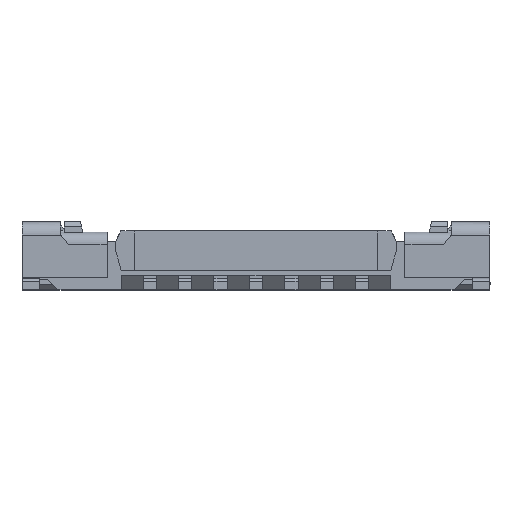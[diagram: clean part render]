
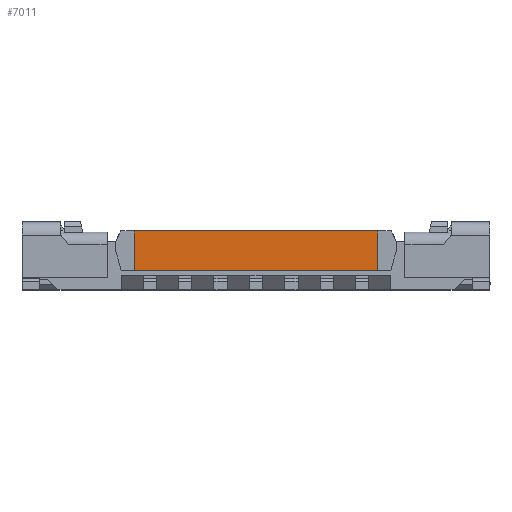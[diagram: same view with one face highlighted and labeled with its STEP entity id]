
A CAD part, top view. The second image highlights one B-rep face of the part: STEP entity #7011.
In plain terms, the highlighted planar face has unit normal (0, 0, 1).
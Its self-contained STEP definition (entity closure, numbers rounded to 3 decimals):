
#27 = FACE_OUTER_BOUND ( 'NONE', #8139, .T. ) ;
#1101 = CARTESIAN_POINT ( 'NONE',  ( -7.175, 0.58, 0.99 ) ) ;
#1160 = ORIENTED_EDGE ( 'NONE', *, *, #11212, .T. ) ;
#1413 = ORIENTED_EDGE ( 'NONE', *, *, #1909, .F. ) ;
#1909 = EDGE_CURVE ( 'NONE', #4611, #5543, #3820, .T. ) ;
#2060 = CARTESIAN_POINT ( 'NONE',  ( -7.175, 0.17, 0.99 ) ) ;
#2305 = PLANE ( 'NONE',  #4972 ) ;
#2630 = VECTOR ( 'NONE', #7715, 1000. ) ;
#2844 = DIRECTION ( 'NONE',  ( 0., -1., 0. ) ) ;
#3105 = DIRECTION ( 'NONE',  ( -1., 0., 0. ) ) ;
#3162 = ORIENTED_EDGE ( 'NONE', *, *, #7248, .F. ) ;
#3353 = VECTOR ( 'NONE', #8055, 1000. ) ;
#3765 = CARTESIAN_POINT ( 'NONE',  ( 0.15, 0.19, 0.99 ) ) ;
#3820 = LINE ( 'NONE', #3765, #2630 ) ;
#4015 = DIRECTION ( 'NONE',  ( 0., 0., -1. ) ) ;
#4093 = VERTEX_POINT ( 'NONE', #10493 ) ;
#4611 = VERTEX_POINT ( 'NONE', #5809 ) ;
#4972 = AXIS2_PLACEMENT_3D ( 'NONE', #2060, #4015, #3105 ) ;
#5543 = VERTEX_POINT ( 'NONE', #11969 ) ;
#5809 = CARTESIAN_POINT ( 'NONE',  ( 0.15, 0.58, 0.99 ) ) ;
#5920 = VECTOR ( 'NONE', #2844, 1000. ) ;
#5941 = DIRECTION ( 'NONE',  ( -1., 0., 0. ) ) ;
#6924 = CARTESIAN_POINT ( 'NONE',  ( -2.25, 0.19, 0.99 ) ) ;
#7011 = ADVANCED_FACE ( 'NONE', ( #27 ), #2305, .F. ) ;
#7028 = LINE ( 'NONE', #12808, #12230 ) ;
#7248 = EDGE_CURVE ( 'NONE', #5543, #10365, #7028, .T. ) ;
#7715 = DIRECTION ( 'NONE',  ( 0., -1., 0. ) ) ;
#7857 = EDGE_CURVE ( 'NONE', #4611, #4093, #10006, .T. ) ;
#7905 = LINE ( 'NONE', #6924, #5920 ) ;
#8055 = DIRECTION ( 'NONE',  ( -1., 0., 0. ) ) ;
#8139 = EDGE_LOOP ( 'NONE', ( #3162, #1413, #10598, #1160 ) ) ;
#8533 = CARTESIAN_POINT ( 'NONE',  ( -2.25, 0.19, 0.99 ) ) ;
#10006 = LINE ( 'NONE', #1101, #3353 ) ;
#10365 = VERTEX_POINT ( 'NONE', #8533 ) ;
#10493 = CARTESIAN_POINT ( 'NONE',  ( -2.25, 0.58, 0.99 ) ) ;
#10598 = ORIENTED_EDGE ( 'NONE', *, *, #7857, .T. ) ;
#11212 = EDGE_CURVE ( 'NONE', #4093, #10365, #7905, .T. ) ;
#11969 = CARTESIAN_POINT ( 'NONE',  ( 0.15, 0.19, 0.99 ) ) ;
#12230 = VECTOR ( 'NONE', #5941, 1000. ) ;
#12808 = CARTESIAN_POINT ( 'NONE',  ( -7.525, 0.19, 0.99 ) ) ;
